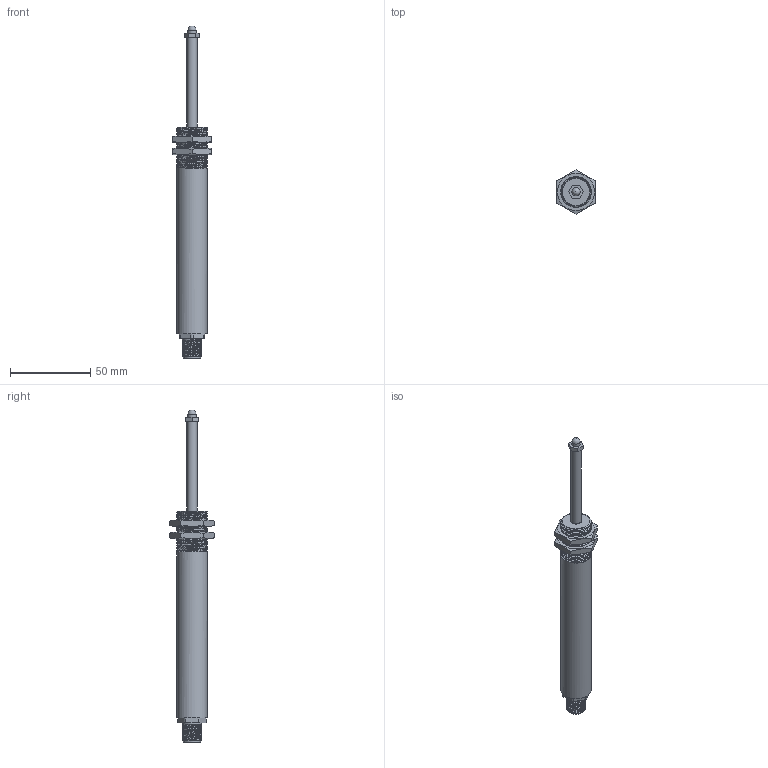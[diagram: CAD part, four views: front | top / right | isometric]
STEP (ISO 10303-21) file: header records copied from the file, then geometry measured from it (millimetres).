
FILE_DESCRIPTION(/* description */ (''),/* implementation_level */ '2;1');
FILE_NAME(/* name */ 'ILPS-18S-050-A-01-YY-Z.stp',/* time_stamp */ '2026-01-27T15:29:29-05:00',/* author */ ('wingm'),/* organization */ (''),/* preprocessor_version */ 'ST-DEVELOPER v20.1',/* originating_system */ 'Autodesk Inventor 2026',/* authorisation */ '');
FILE_SCHEMA (('AUTOMOTIVE_DESIGN { 1 0 10303 214 3 1 1 }'));
Length unit declared in the file: inch
Products named in the file (9): AAAA; Body; End Cap; Shaft; Lining; Hex Nut; End Cap_1; M12 Connector; #11146
Assembly tree (9 placements, depth 2):
  AAAA
    Body
    End Cap
    Shaft
    Lining
    Hex Nut  x2
    End Cap_1
    M12 Connector
    #11146
Bounding box: 24 x 27.71 x 207.01 mm (x, y, z)
Volume: 13279.9 mm3; surface area: 26125.6 mm2
Topology: 18 solids, 18 shells, 167 faces, 384 edges, 254 vertices
Faces by surface type: cylinder 73, plane 64, cone 12, bspline 12, sphere 6
Full cylindrical faces by diameter (mm): 1.05 x5, 1.905 x1, 2.845 x3, 5.08 x1, 6.35 x2, 6.858 x2, 8 x2, 10.6 x2, 12 x10, 13.185 x1, 17.069 x3, 19.05 x28
Entity records: 11225 total; most frequent: CARTESIAN_POINT 7635, ORIENTED_EDGE 660, DIRECTION 620, EDGE_CURVE 330, AXIS2_PLACEMENT_3D 246, VERTEX_POINT 222, EDGE_LOOP 166, FACE_OUTER_BOUND 148
